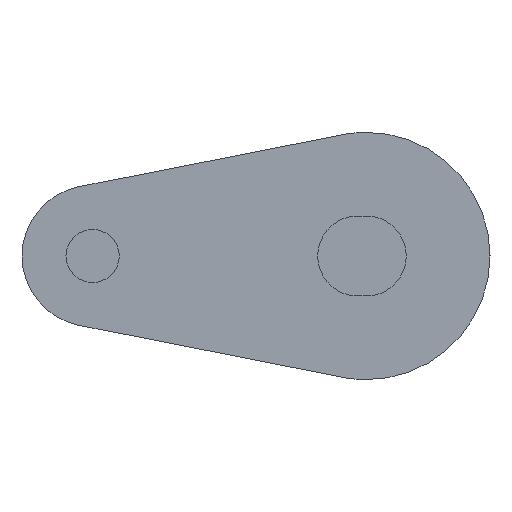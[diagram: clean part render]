
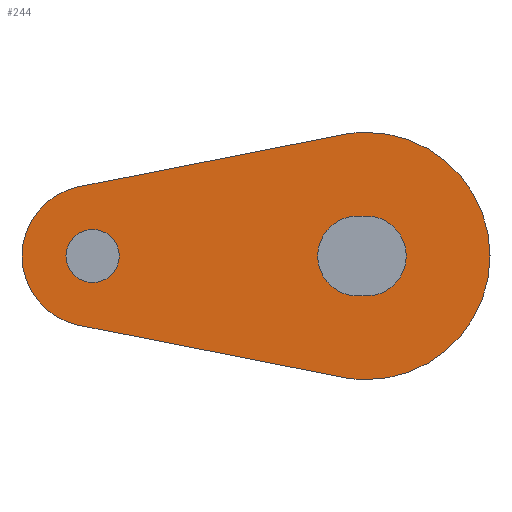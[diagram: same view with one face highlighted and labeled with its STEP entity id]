
A CAD part, left-side view. The second image highlights one B-rep face of the part: STEP entity #244.
In plain terms, the highlighted planar face has unit normal (-1, 0, 0).
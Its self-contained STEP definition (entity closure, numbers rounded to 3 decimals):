
#27 = VERTEX_POINT ( 'NONE', #51 ) ;
#30 = VERTEX_POINT ( 'NONE', #84 ) ;
#31 = VERTEX_POINT ( 'NONE', #83 ) ;
#41 = VERTEX_POINT ( 'NONE', #79 ) ;
#48 = CARTESIAN_POINT ( 'NONE',  ( -507.5, 0., -2.26 ) ) ;
#50 = CARTESIAN_POINT ( 'NONE',  ( -507.5, 16.274, -3.924 ) ) ;
#51 = CARTESIAN_POINT ( 'NONE',  ( -507.5, 1.355, -6.868 ) ) ;
#59 = VERTEX_POINT ( 'NONE', #113 ) ;
#60 = VERTEX_POINT ( 'NONE', #112 ) ;
#64 = VERTEX_POINT ( 'NONE', #125 ) ;
#65 = VERTEX_POINT ( 'NONE', #121 ) ;
#70 = VERTEX_POINT ( 'NONE', #48 ) ;
#73 = VERTEX_POINT ( 'NONE', #50 ) ;
#75 = CARTESIAN_POINT ( 'NONE',  ( -507.5, 0.5, 2.26 ) ) ;
#79 = CARTESIAN_POINT ( 'NONE',  ( -507.5, 16.274, 3.924 ) ) ;
#83 = CARTESIAN_POINT ( 'NONE',  ( -507.5, 15.5, -1.51 ) ) ;
#84 = CARTESIAN_POINT ( 'NONE',  ( -507.5, 1.355, 6.868 ) ) ;
#100 = CARTESIAN_POINT ( 'NONE',  ( -507.5, 0., 2.26 ) ) ;
#112 = CARTESIAN_POINT ( 'NONE',  ( -507.5, 0., -7. ) ) ;
#113 = CARTESIAN_POINT ( 'NONE',  ( -507.5, 0., 7. ) ) ;
#121 = CARTESIAN_POINT ( 'NONE',  ( -507.5, 0.5, -2.26 ) ) ;
#125 = CARTESIAN_POINT ( 'NONE',  ( -507.5, 15.5, 1.51 ) ) ;
#127 = VERTEX_POINT ( 'NONE', #75 ) ;
#128 = VERTEX_POINT ( 'NONE', #100 ) ;
#133 = DIRECTION ( 'NONE',  ( 0., 0., -1. ) ) ;
#134 = DIRECTION ( 'NONE',  ( 1., 0., 0. ) ) ;
#141 = DIRECTION ( 'NONE',  ( 0., 0., -1. ) ) ;
#142 = DIRECTION ( 'NONE',  ( 1., 0., 0. ) ) ;
#143 = CARTESIAN_POINT ( 'NONE',  ( -507.5, 0., 0. ) ) ;
#146 = DIRECTION ( 'NONE',  ( 0., 0.981, 0.194 ) ) ;
#147 = CARTESIAN_POINT ( 'NONE',  ( -507.5, 1.355, -6.868 ) ) ;
#148 = DIRECTION ( 'NONE',  ( 0., 0., -1. ) ) ;
#149 = DIRECTION ( 'NONE',  ( 1., 0., 0. ) ) ;
#153 = CARTESIAN_POINT ( 'NONE',  ( -507.5, 15.5, 0. ) ) ;
#156 = CARTESIAN_POINT ( 'NONE',  ( -507.5, 15.5, 0. ) ) ;
#244 = ADVANCED_FACE ( 'NONE', ( #534, #533, #528 ), #922, .T. ) ;
#253 = VECTOR ( 'NONE', #146, 1000. ) ;
#263 = CIRCLE ( 'NONE', #435, 2.26 ) ;
#267 = LINE ( 'NONE', #147, #253 ) ;
#269 = CIRCLE ( 'NONE', #406, 1.51 ) ;
#273 = CIRCLE ( 'NONE', #344, 4. ) ;
#307 = EDGE_CURVE ( 'NONE', #127, #128, #502, .T. ) ;
#319 = AXIS2_PLACEMENT_3D ( 'NONE', #728, #727, #725 ) ;
#324 = AXIS2_PLACEMENT_3D ( 'NONE', #718, #714, #713 ) ;
#325 = AXIS2_PLACEMENT_3D ( 'NONE', #768, #758, #757 ) ;
#344 = AXIS2_PLACEMENT_3D ( 'NONE', #156, #149, #148 ) ;
#353 = EDGE_CURVE ( 'NONE', #59, #60, #450, .T. ) ;
#361 = EDGE_CURVE ( 'NONE', #30, #59, #1040, .T. ) ;
#365 = EDGE_CURVE ( 'NONE', #64, #31, #1059, .T. ) ;
#367 = EDGE_CURVE ( 'NONE', #70, #65, #1060, .T. ) ;
#369 = EDGE_CURVE ( 'NONE', #65, #127, #1056, .T. ) ;
#372 = EDGE_CURVE ( 'NONE', #41, #30, #1039, .T. ) ;
#382 = EDGE_CURVE ( 'NONE', #60, #27, #1036, .T. ) ;
#395 = AXIS2_PLACEMENT_3D ( 'NONE', #724, #720, #719 ) ;
#406 = AXIS2_PLACEMENT_3D ( 'NONE', #153, #142, #141 ) ;
#407 = EDGE_CURVE ( 'NONE', #73, #41, #273, .T. ) ;
#408 = AXIS2_PLACEMENT_3D ( 'NONE', #715, #694, #693 ) ;
#412 = EDGE_CURVE ( 'NONE', #27, #73, #267, .T. ) ;
#415 = EDGE_CURVE ( 'NONE', #31, #64, #269, .T. ) ;
#422 = EDGE_CURVE ( 'NONE', #128, #70, #263, .T. ) ;
#431 = AXIS2_PLACEMENT_3D ( 'NONE', #921, #920, #919 ) ;
#435 = AXIS2_PLACEMENT_3D ( 'NONE', #143, #134, #133 ) ;
#450 = CIRCLE ( 'NONE', #325, 7. ) ;
#502 = LINE ( 'NONE', #865, #504 ) ;
#504 = VECTOR ( 'NONE', #858, 1000. ) ;
#528 = FACE_OUTER_BOUND ( 'NONE', #1017, .T. ) ;
#533 = FACE_BOUND ( 'NONE', #1015, .T. ) ;
#534 = FACE_BOUND ( 'NONE', #1012, .T. ) ;
#693 = DIRECTION ( 'NONE',  ( 0., 0., -1. ) ) ;
#694 = DIRECTION ( 'NONE',  ( 1., 0., 0. ) ) ;
#711 = DIRECTION ( 'NONE',  ( 0., -0.981, 0.194 ) ) ;
#712 = CARTESIAN_POINT ( 'NONE',  ( -507.5, 16.274, 3.924 ) ) ;
#713 = DIRECTION ( 'NONE',  ( 0., 0., -1. ) ) ;
#714 = DIRECTION ( 'NONE',  ( 1., 0., 0. ) ) ;
#715 = CARTESIAN_POINT ( 'NONE',  ( -507.5, 0., 0. ) ) ;
#716 = DIRECTION ( 'NONE',  ( 0., 1., 0. ) ) ;
#718 = CARTESIAN_POINT ( 'NONE',  ( -507.5, 0.5, 0. ) ) ;
#719 = DIRECTION ( 'NONE',  ( 0., 0., -1. ) ) ;
#720 = DIRECTION ( 'NONE',  ( 1., 0., 0. ) ) ;
#724 = CARTESIAN_POINT ( 'NONE',  ( -507.5, 15.5, 0. ) ) ;
#725 = DIRECTION ( 'NONE',  ( 0., 0., -1. ) ) ;
#727 = DIRECTION ( 'NONE',  ( 1., 0., 0. ) ) ;
#728 = CARTESIAN_POINT ( 'NONE',  ( -507.5, 0., 0. ) ) ;
#749 = CARTESIAN_POINT ( 'NONE',  ( -507.5, 0.5, -2.26 ) ) ;
#757 = DIRECTION ( 'NONE',  ( 0., 0., -1. ) ) ;
#758 = DIRECTION ( 'NONE',  ( 1., 0., 0. ) ) ;
#768 = CARTESIAN_POINT ( 'NONE',  ( -507.5, 0., 0. ) ) ;
#858 = DIRECTION ( 'NONE',  ( 0., -1., 0. ) ) ;
#865 = CARTESIAN_POINT ( 'NONE',  ( -507.5, 0.5, 2.26 ) ) ;
#919 = DIRECTION ( 'NONE',  ( 0., 0., -1. ) ) ;
#920 = DIRECTION ( 'NONE',  ( -1., 0., 0. ) ) ;
#921 = CARTESIAN_POINT ( 'NONE',  ( -507.5, 15.5, 0. ) ) ;
#922 = PLANE ( 'NONE',  #431 ) ;
#945 = ORIENTED_EDGE ( 'NONE', *, *, #412, .F. ) ;
#949 = ORIENTED_EDGE ( 'NONE', *, *, #365, .T. ) ;
#955 = ORIENTED_EDGE ( 'NONE', *, *, #382, .F. ) ;
#965 = ORIENTED_EDGE ( 'NONE', *, *, #307, .T. ) ;
#1004 = ORIENTED_EDGE ( 'NONE', *, *, #353, .F. ) ;
#1008 = ORIENTED_EDGE ( 'NONE', *, *, #407, .F. ) ;
#1009 = ORIENTED_EDGE ( 'NONE', *, *, #415, .T. ) ;
#1012 = EDGE_LOOP ( 'NONE', ( #1024, #965, #1025, #1027 ) ) ;
#1015 = EDGE_LOOP ( 'NONE', ( #1009, #949 ) ) ;
#1017 = EDGE_LOOP ( 'NONE', ( #1008, #945, #955, #1004, #1022, #1020 ) ) ;
#1020 = ORIENTED_EDGE ( 'NONE', *, *, #372, .F. ) ;
#1022 = ORIENTED_EDGE ( 'NONE', *, *, #361, .F. ) ;
#1024 = ORIENTED_EDGE ( 'NONE', *, *, #369, .T. ) ;
#1025 = ORIENTED_EDGE ( 'NONE', *, *, #422, .T. ) ;
#1027 = ORIENTED_EDGE ( 'NONE', *, *, #367, .T. ) ;
#1036 = CIRCLE ( 'NONE', #408, 7. ) ;
#1039 = LINE ( 'NONE', #712, #1063 ) ;
#1040 = CIRCLE ( 'NONE', #319, 7. ) ;
#1056 = CIRCLE ( 'NONE', #324, 2.26 ) ;
#1059 = CIRCLE ( 'NONE', #395, 1.51 ) ;
#1060 = LINE ( 'NONE', #749, #1061 ) ;
#1061 = VECTOR ( 'NONE', #716, 1000. ) ;
#1063 = VECTOR ( 'NONE', #711, 1000. ) ;
